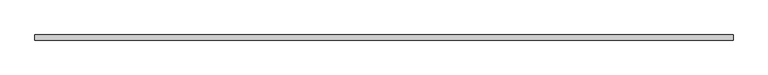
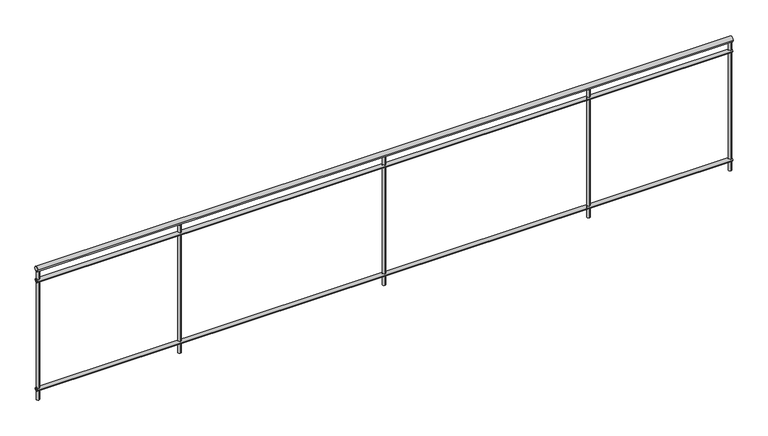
"""IFC4 building model written with IfcOpenShell, lengths in millimetres: railing geometry, バルコニー手摺."""

import ifcopenshell
import ifcopenshell.guid

model = None  # the IFC model being written
_history = None  # IfcOwnerHistory: only IFC2X3 demands one
_inside = {}  # id of a spatial element -> (the spatial element, [elements in it])
_under = {}  # id of a project, library or spatial element -> (it, [spatial elements below it])
_declared = {}  # id of a project -> (the project, [libraries it declares])
_typed = {}  # id of a type object -> (the type object, [elements of that type])
_made_of = {}  # id of a material, layer set ... -> (it, [elements and type objects made of it])


def new_model(schema):
    """Start an empty IFC model of exactly this schema.

    Asked for "IFC4X3", IfcOpenShell would pick the latest addendum, in which some entities
    have other attributes; the version numbers below select the first issue.
    IFC2X3 requires an IfcOwnerHistory on every rooted entity: one is made here for all.
    """
    global model, _history
    if schema == "IFC4X3":
        model = ifcopenshell.file(schema_version=(4, 3, 0, 0))
    else:
        model = ifcopenshell.file(schema=schema)
    _inside.clear()
    _under.clear()
    _declared.clear()
    _typed.clear()
    _made_of.clear()
    _history = None
    if model.schema == "IFC2X3":
        org = make("IfcOrganization", Name="unknown")
        user = make(
            "IfcPersonAndOrganization",
            ThePerson=make("IfcPerson", FamilyName="unknown"),
            TheOrganization=org,
        )
        app = make(
            "IfcApplication",
            ApplicationDeveloper=org,
            Version="unknown",
            ApplicationFullName="unknown",
            ApplicationIdentifier="unknown",
        )
        _history = make(
            "IfcOwnerHistory",
            OwningUser=user,
            OwningApplication=app,
            ChangeAction="ADDED",
            CreationDate=0,
        )
    return model


def make(cls, **values):
    """One entity of the class cls with the attributes given. An attribute that is None is left unset."""
    return model.create_entity(
        cls, **{name: value for name, value in values.items() if value is not None}
    )


def rooted(cls, **values):
    """An entity with a GlobalId (a new one), such as an element, a storey or a relation."""
    return make(cls, GlobalId=ifcopenshell.guid.new(), OwnerHistory=_history, **values)


def si_unit(unit_type, name, prefix=None):
    """IfcSIUnit, for example si_unit("LENGTHUNIT", "METRE", prefix="MILLI")."""
    return make("IfcSIUnit", UnitType=unit_type, Prefix=prefix, Name=name)


def assignment(units):
    """IfcUnitAssignment: the units of a project."""
    return None if units is None else make("IfcUnitAssignment", Units=units)


def point(xyz):
    """IfcCartesianPoint."""
    return None if xyz is None else make("IfcCartesianPoint", Coordinates=xyz)


def direction(xyz):
    """IfcDirection."""
    return None if xyz is None else make("IfcDirection", DirectionRatios=xyz)


def frame(location, z_axis=None, x_axis=None):
    """IfcAxis2Placement3D, a coordinate frame: its origin and axes. An axis left out is left unset."""
    return make(
        "IfcAxis2Placement3D",
        Location=point(location),
        Axis=direction(z_axis),
        RefDirection=direction(x_axis),
    )


def frame_2d(location, x_axis=None):
    """IfcAxis2Placement2D, a coordinate frame in the plane: its origin and x axis."""
    return make(
        "IfcAxis2Placement2D", Location=point(location), RefDirection=direction(x_axis)
    )


def origin():
    """The frame at (0, 0, 0) with its axes left unset."""
    return frame((0.0, 0.0, 0.0))


def place(relative_to, where):
    """IfcLocalPlacement: puts the frame where relative to a parent placement (None: the world)."""
    return make(
        "IfcLocalPlacement", PlacementRelTo=relative_to, RelativePlacement=where
    )


def context(
    kind, dimensions, precision=None, world=None, true_north=None, identifier=None
):
    """IfcGeometricRepresentationContext, for example the 3D "Model" context."""
    return make(
        "IfcGeometricRepresentationContext",
        ContextIdentifier=identifier,
        ContextType=kind,
        CoordinateSpaceDimension=dimensions,
        Precision=precision,
        WorldCoordinateSystem=world,
        TrueNorth=true_north,
    )


def project(units=None, contexts=None):
    """IfcProject with its units and contexts."""
    return rooted(
        "IfcProject",
        Name="project",
        RepresentationContexts=contexts,
        UnitsInContext=assignment(units),
    )


def spatial(cls, under=None, at=None, **own):
    """A site, building, storey or space (cls), placed at a placement, below another one or the project."""
    s = rooted(cls, ObjectPlacement=at, **own)
    if under is not None:
        _under.setdefault(under.id(), (under, []))[1].append(s)
    return s


def circle_curve(where, radius):
    """IfcCircle in the frame where."""
    return make("IfcCircle", Position=where, Radius=radius)


def trimmed(basis, trim1, trim2, sense, master):
    """IfcTrimmedCurve: the piece of a basis curve between two trims."""
    return make(
        "IfcTrimmedCurve",
        BasisCurve=basis,
        Trim1=trim1,
        Trim2=trim2,
        SenseAgreement=sense,
        MasterRepresentation=master,
    )


def segment(curve, same_sense, transition):
    """IfcCompositeCurveSegment."""
    return make(
        "IfcCompositeCurveSegment",
        Transition=transition,
        SameSense=same_sense,
        ParentCurve=curve,
    )


def composite_curve(segments, self_intersect=None):
    """IfcCompositeCurve: segments joined end to end."""
    return make("IfcCompositeCurve", Segments=segments, SelfIntersect=self_intersect)


def outline(outer, holes=None, kind="AREA"):
    """IfcArbitraryClosedProfileDef: a profile drawn as a closed curve; with holes, ...WithVoids."""
    if holes is None:
        return make("IfcArbitraryClosedProfileDef", ProfileType=kind, OuterCurve=outer)
    return make(
        "IfcArbitraryProfileDefWithVoids",
        ProfileType=kind,
        OuterCurve=outer,
        InnerCurves=holes,
    )


def extrude(swept, where, along, depth):
    """IfcExtrudedAreaSolid: the profile swept, set in the frame where, extruded along a direction by depth."""
    return make(
        "IfcExtrudedAreaSolid",
        SweptArea=swept,
        Position=where,
        ExtrudedDirection=direction(along),
        Depth=depth,
    )


def shape(context_of_items, identifier, shape_type, items):
    """IfcShapeRepresentation: the items that make up one representation, for example the "Body"."""
    return make(
        "IfcShapeRepresentation",
        ContextOfItems=context_of_items,
        RepresentationIdentifier=identifier,
        RepresentationType=shape_type,
        Items=items,
    )


def source(mapping_origin, context_of_items, identifier, shape_type, items):
    """IfcRepresentationMap: a shape defined once, which mapped items show again and again."""
    return make(
        "IfcRepresentationMap",
        MappingOrigin=mapping_origin,
        MappedRepresentation=shape(context_of_items, identifier, shape_type, items),
    )


def transform(
    local_origin,
    x_axis=None,
    y_axis=None,
    z_axis=None,
    scale=None,
    scale2=None,
    scale3=None,
    uniform=True,
):
    """IfcCartesianTransformationOperator3D, or its non-uniform kind. x_axis, y_axis, z_axis: its Axis1, 2, 3."""
    if uniform:
        return make(
            "IfcCartesianTransformationOperator3D",
            Axis1=direction(x_axis),
            Axis2=direction(y_axis),
            LocalOrigin=point(local_origin),
            Scale=scale,
            Axis3=direction(z_axis),
        )
    return make(
        "IfcCartesianTransformationOperator3DnonUniform",
        Axis1=direction(x_axis),
        Axis2=direction(y_axis),
        LocalOrigin=point(local_origin),
        Scale=scale,
        Axis3=direction(z_axis),
        Scale2=scale2,
        Scale3=scale3,
    )


def mapped(mapping_source, mapping_target):
    """IfcMappedItem: shows the shape of a source again, moved by a transform."""
    return make(
        "IfcMappedItem", MappingSource=mapping_source, MappingTarget=mapping_target
    )


def made_of(thing, what):
    """Note that an element or type object is made of a material, layer set ...; save() writes the relation."""
    if what is not None:
        _made_of.setdefault(what.id(), (what, []))[1].append(thing)
    return thing


def element(
    cls,
    number,
    at=None,
    inside=None,
    cuts=None,
    type_object=None,
    material=None,
    context=None,
    identifier="Body",
    shape_type=None,
    held_by="IfcProductDefinitionShape",
    body=None,
    shapes=None,
    **own,
):
    """One element of the class cls, such as IfcWall. Its Tag is "e" and its number.

    at: its placement. inside: the storey or other place that contains it. cuts: it is an
    opening in that element (IfcRelVoidsElement). A single representation is given by context,
    identifier, shape_type and body (its items); several are given by shapes. held_by: the class
    of the entity that holds the representations. save() writes the other relations.
    """
    e = rooted(cls, Tag="e%d" % number, ObjectPlacement=at, **own)
    if body is not None:
        shapes = [shape(context, identifier, shape_type, body)]
    if shapes is not None:
        e.Representation = make(held_by, Representations=shapes)
    if inside is not None:
        _inside.setdefault(inside.id(), (inside, []))[1].append(e)
    if cuts is not None:
        rooted(
            "IfcRelVoidsElement", RelatingBuildingElement=cuts, RelatedOpeningElement=e
        )
    if type_object is not None:
        _typed.setdefault(type_object.id(), (type_object, []))[1].append(e)
    return made_of(e, material)


def aggregate(whole, parts):
    """IfcRelAggregates: a whole, such as a stair, and the parts it consists of."""
    return rooted("IfcRelAggregates", RelatingObject=whole, RelatedObjects=parts)


def save(model, path):
    """Write the relations noted so far, then the file.

    IfcRelAggregates (storeys below a building ...), IfcRelContainedInSpatialStructure (elements
    in a storey), IfcRelDefinesByType, IfcRelAssociatesMaterial and IfcRelDeclares: one each for
    every whole, place, type object, material and project.
    """
    for whole, parts in _under.values():
        aggregate(whole, parts)
    for where, things in _inside.values():
        rooted(
            "IfcRelContainedInSpatialStructure",
            RelatedElements=things,
            RelatingStructure=where,
        )
    for kind, things in _typed.values():
        rooted("IfcRelDefinesByType", RelatedObjects=things, RelatingType=kind)
    for what, things in _made_of.values():
        rooted("IfcRelAssociatesMaterial", RelatedObjects=things, RelatingMaterial=what)
    for by, libraries in _declared.values():
        rooted("IfcRelDeclares", RelatingContext=by, RelatedDefinitions=libraries)
    model.write(path)


def railing_074a9b7f(model_context):
    return source(origin(), model_context, "Body", "SweptSolid", [
        extrude(outline(composite_curve([segment(trimmed(circle_curve(frame_2d((10035.2598658, 1980.0)), 20.0), [point((10055.2598658, 1980.0))], [point((10015.2598658, 1980.0))], False, "CARTESIAN"), True, "CONTINUOUS"), segment(trimmed(circle_curve(frame_2d((10035.2598658, 1980.0)), 20.0), [point((10015.2598658, 1980.0))], [point((10055.2598658, 1980.0))], False, "CARTESIAN"), True, "CONTINUOUS")], self_intersect=False)), frame((-3045.6194095, 0.0, 0.0), z_axis=(1.0, 0.0, 0.0), x_axis=(0.0, 1.0, 0.0)), (0.0, 0.0, 1.0), 5440.0),
        extrude(outline(composite_curve([segment(trimmed(circle_curve(frame_2d((10035.2598658, 1885.0)), 15.0), [point((10050.2598658, 1885.0))], [point((10020.2598658, 1885.0))], False, "CARTESIAN"), True, "CONTINUOUS"), segment(trimmed(circle_curve(frame_2d((10035.2598658, 1885.0)), 15.0), [point((10020.2598658, 1885.0))], [point((10050.2598658, 1885.0))], False, "CARTESIAN"), True, "CONTINUOUS")], self_intersect=False)), frame((-3045.6194095, 0.0, 0.0), z_axis=(1.0, 0.0, 0.0), x_axis=(0.0, 1.0, 0.0)), (0.0, 0.0, 1.0), 5440.0),
        extrude(outline(composite_curve([segment(trimmed(circle_curve(frame_2d((10035.2598658, 985.0)), 15.0), [point((10050.2598658, 985.0))], [point((10020.2598658, 985.0))], False, "CARTESIAN"), True, "CONTINUOUS"), segment(trimmed(circle_curve(frame_2d((10035.2598658, 985.0)), 15.0), [point((10020.2598658, 985.0))], [point((10050.2598658, 985.0))], False, "CARTESIAN"), True, "CONTINUOUS")], self_intersect=False)), frame((-3045.6194095, 0.0, 0.0), z_axis=(1.0, 0.0, 0.0), x_axis=(0.0, 1.0, 0.0)), (0.0, 0.0, 1.0), 5440.0),
        extrude(outline(composite_curve([segment(trimmed(circle_curve(frame_2d((-1925.6194095, 10035.2598658)), 12.5), [point((-1925.6194095, 10047.7598658))], [point((-1925.6194095, 10022.7598658))], False, "CARTESIAN"), True, "CONTINUOUS"), segment(trimmed(circle_curve(frame_2d((-1925.6194095, 10035.2598658)), 12.5), [point((-1925.6194095, 10022.7598658))], [point((-1925.6194095, 10047.7598658))], False, "CARTESIAN"), True, "CONTINUOUS")], self_intersect=False)), frame((0.0, 0.0, 900.0), z_axis=(0.0, 0.0, 1.0), x_axis=(1.0, 0.0, 0.0)), (0.0, 0.0, 1.0), 1060.0),
        extrude(outline(composite_curve([segment(trimmed(circle_curve(frame_2d((-325.6194095, 10035.2598658)), 12.5), [point((-325.6194095, 10047.7598658))], [point((-325.6194095, 10022.7598658))], False, "CARTESIAN"), True, "CONTINUOUS"), segment(trimmed(circle_curve(frame_2d((-325.6194095, 10035.2598658)), 12.5), [point((-325.6194095, 10022.7598658))], [point((-325.6194095, 10047.7598658))], False, "CARTESIAN"), True, "CONTINUOUS")], self_intersect=False)), frame((0.0, 0.0, 900.0), z_axis=(0.0, 0.0, 1.0), x_axis=(1.0, 0.0, 0.0)), (0.0, 0.0, 1.0), 1060.0),
        extrude(outline(composite_curve([segment(trimmed(circle_curve(frame_2d((1274.3805905, 10035.2598658)), 12.5), [point((1274.3805905, 10047.7598658))], [point((1274.3805905, 10022.7598658))], False, "CARTESIAN"), True, "CONTINUOUS"), segment(trimmed(circle_curve(frame_2d((1274.3805905, 10035.2598658)), 12.5), [point((1274.3805905, 10022.7598658))], [point((1274.3805905, 10047.7598658))], False, "CARTESIAN"), True, "CONTINUOUS")], self_intersect=False)), frame((0.0, 0.0, 900.0), z_axis=(0.0, 0.0, 1.0), x_axis=(1.0, 0.0, 0.0)), (0.0, 0.0, 1.0), 1060.0),
        extrude(outline(composite_curve([segment(trimmed(circle_curve(frame_2d((-3033.4194095, 10035.2598658)), 12.5), [point((-3033.4194095, 10047.7598658))], [point((-3033.4194095, 10022.7598658))], False, "CARTESIAN"), True, "CONTINUOUS"), segment(trimmed(circle_curve(frame_2d((-3033.4194095, 10035.2598658)), 12.5), [point((-3033.4194095, 10022.7598658))], [point((-3033.4194095, 10047.7598658))], False, "CARTESIAN"), True, "CONTINUOUS")], self_intersect=False)), frame((0.0, 0.0, 900.0), z_axis=(0.0, 0.0, 1.0), x_axis=(1.0, 0.0, 0.0)), (0.0, 0.0, 1.0), 1060.0),
        extrude(outline(composite_curve([segment(trimmed(circle_curve(frame_2d((2382.1805905, 10035.2598658)), 12.5), [point((2382.1805905, 10047.7598658))], [point((2382.1805905, 10022.7598658))], False, "CARTESIAN"), True, "CONTINUOUS"), segment(trimmed(circle_curve(frame_2d((2382.1805905, 10035.2598658)), 12.5), [point((2382.1805905, 10022.7598658))], [point((2382.1805905, 10047.7598658))], False, "CARTESIAN"), True, "CONTINUOUS")], self_intersect=False)), frame((0.0, 0.0, 900.0), z_axis=(0.0, 0.0, 1.0), x_axis=(1.0, 0.0, 0.0)), (0.0, 0.0, 1.0), 1060.0),
    ])


if __name__ == "__main__":
    model = new_model("IFC4")
    model_context = context("Model", 3, world=origin())
    ifc_project = project(units=[si_unit("LENGTHUNIT", "METRE", prefix="MILLI")], contexts=[model_context])
    site = spatial("IfcSite", under=ifc_project)
    building = spatial("IfcBuilding", under=site)
    placement = place(None, origin())
    railing_shape = railing_074a9b7f(model_context)
    element("IfcRailing", 1, ObjectType="バルコニー手摺", at=placement, inside=building, context=model_context, shape_type="MappedRepresentation", body=[
        mapped(railing_shape, transform((0.0, 0.0, 0.0), x_axis=(1.0, 0.0, 0.0), y_axis=(0.0, 1.0, 0.0), z_axis=(0.0, 0.0, 1.0))),
    ])
    save(model, "model.ifc")
